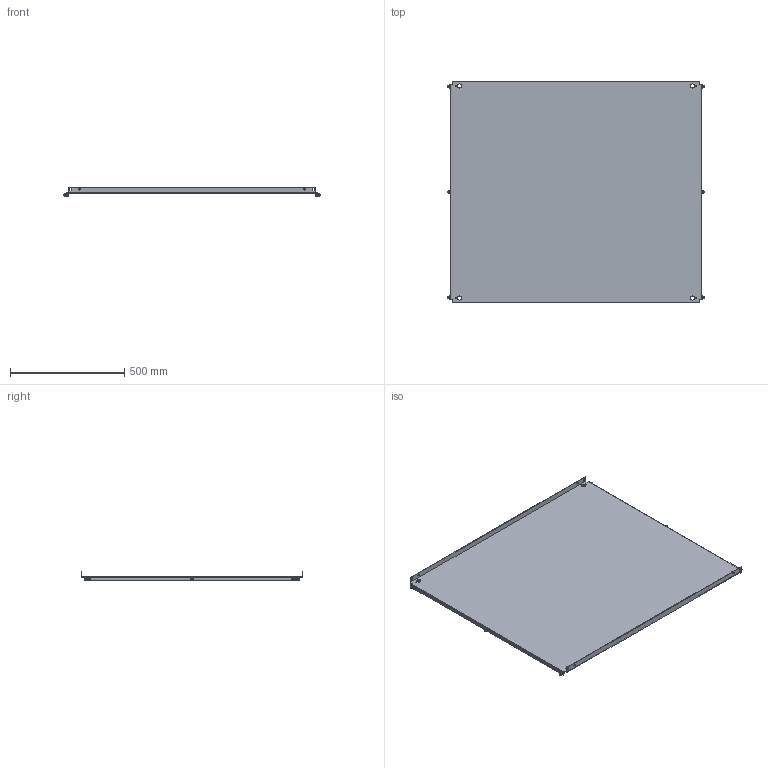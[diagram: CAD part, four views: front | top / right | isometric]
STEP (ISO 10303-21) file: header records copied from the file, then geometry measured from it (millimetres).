
FILE_DESCRIPTION(('Open CASCADE Model'),'2;1');
FILE_NAME('Open CASCADE Shape Model','2025-02-24T17:07:13',('Author'),( 'Open CASCADE'),'Open CASCADE STEP processor 7.8','Open CASCADE 7.8' ,'Unknown');
FILE_SCHEMA(('AUTOMOTIVE_DESIGN { 1 0 10303 214 1 1 1 1 }'));
Length unit declared in the file: millimetre
Products named in the file (4): Compound1; Solid1; Solid2; Solid3
Assembly tree (13 placements, depth 2):
  Compound1
    Solid1
    Solid2  x6
    Solid3  x6
Bounding box: 1127 x 969 x 42.59 mm (x, y, z)
Volume: 2872837.2 mm3; surface area: 2311525.4 mm2
Topology: 13 solids, 13 shells, 422 faces, 1010 edges, 620 vertices
Faces by surface type: plane 192, cone 102, bspline 72, cylinder 38, torus 18
Full cylindrical faces by diameter (mm): 5 x6, 6 x12, 7 x16
Entity records: 5048 total; most frequent: CARTESIAN_POINT 1397, ORIENTED_EDGE 770, DIRECTION 664, EDGE_CURVE 385, VERTEX_POINT 250, AXIS2_PLACEMENT_3D 224, LINE 216, VECTOR 216
